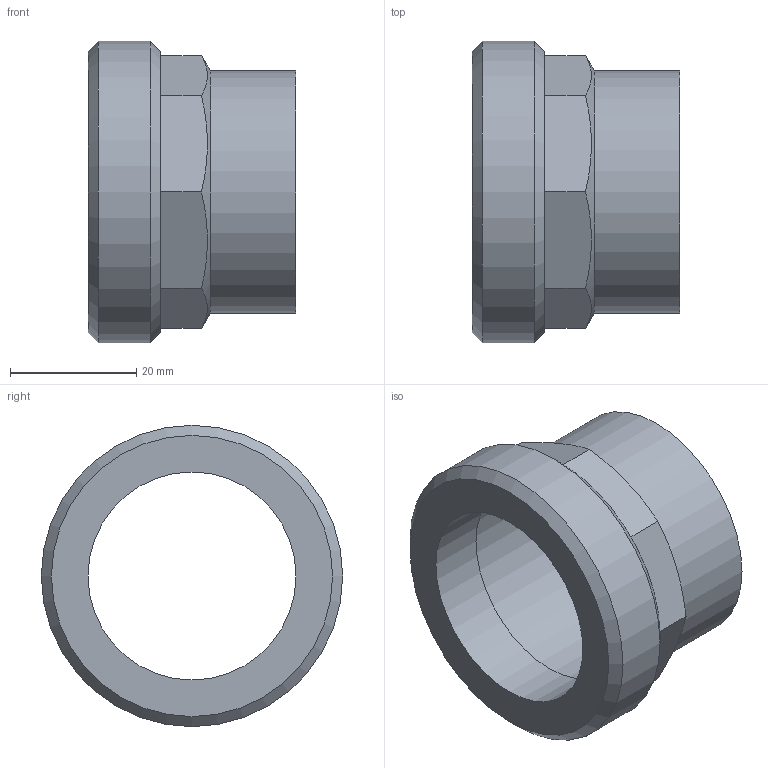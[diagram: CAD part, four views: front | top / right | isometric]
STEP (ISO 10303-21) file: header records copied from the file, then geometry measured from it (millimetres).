
FILE_DESCRIPTION((''),'2;1');
FILE_NAME('\\Lg50001\groups\SANHA Legnica\Engineering\Public\RYSUNKI\SANHA POLSKA\4370\STEP\14370_35-112(1).stp','2010-04-21T11:40:30',('pajchrowski'),(''),'Autodesk Inventor 2009','Autodesk Inventor 2009','');
FILE_SCHEMA(('AUTOMOTIVE_DESIGN { 1 0 10303 214 1 1 1 1 }'));
Length unit declared in the file: millimetre
Products named in the file (1): 14370_35-112(2)
Bounding box: 33 x 47.8 x 47.8 mm (x, y, z)
Volume: 15624.9 mm3; surface area: 9499.7 mm2
Topology: 1 solids, 1 shells, 19 faces, 41 edges, 26 vertices
Faces by surface type: plane 12, cylinder 4, cone 3
Full cylindrical faces by diameter (mm): 33 x1, 35 x1, 38.4 x1, 47.803 x1
Entity records: 500 total; most frequent: CARTESIAN_POINT 96, DIRECTION 76, ORIENTED_EDGE 68, EDGE_CURVE 34, AXIS2_PLACEMENT_3D 30, EDGE_LOOP 30, VERTEX_POINT 26, FACE_OUTER_BOUND 19
